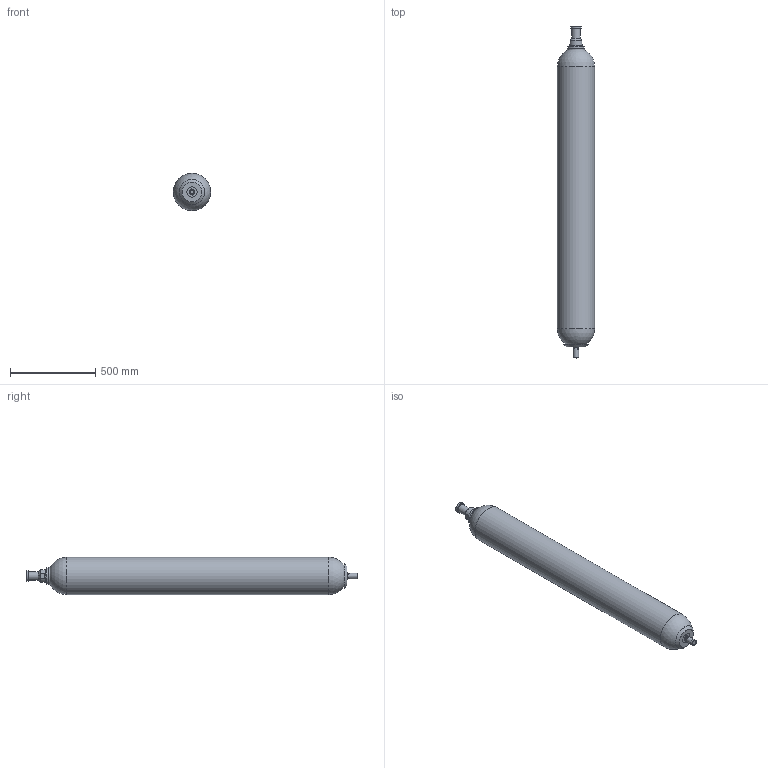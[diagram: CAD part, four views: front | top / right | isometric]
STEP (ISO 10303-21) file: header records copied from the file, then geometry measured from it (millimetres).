
FILE_DESCRIPTION((''),'2;1');
FILE_NAME('F:\STEP\ALLEGE\GAMME_EHVF_350&330&250bar\EHVF_50L_330_90.stp','2012-06-12T13:20:03',('eric.lebolay'),(''),'Autodesk Inventor 2012','Autodesk Inventor 2012','');
FILE_SCHEMA(('AUTOMOTIVE_DESIGN { 1 0 10303 214 1 1 1 1 }'));
Length unit declared in the file: millimetre
Products named in the file (22): EHVF_50L_330_90; PF108368-05200; BP102851-00200; BOUCHON DE PROTECTION; BOUCHON PLASTIQUE; EC102958-00200; BC110335-00220; BE105544-00200; EC100990-00200; CA100100-00220; B2100950-00200; ENROBAGE; BM110333-00200; CB110083-00200; CA110199-00190
Assembly tree (21 placements, depth 5):
  EHVF_50L_330_90
    PF108368-05200
      PF108368-05200
    BP102851-00200
      BOUCHON DE PROTECTION
      BOUCHON PLASTIQUE
    EC102958-00200
      EC102958-00200
    BC110335-00220
      BE105544-00200
        BE105544-00200
      EC100990-00200
        EC100990-00200
      CA100100-00220
        B2100950-00200
          B2100950-00200
        ENROBAGE
      BM110333-00200
        CB110083-00200
          CB110083-00200
    CA110199-00190
      CA110199-00190
Bounding box: 219.1 x 1952.2 x 219.1 mm (x, y, z)
Volume: 10675870.1 mm3; surface area: 2515553.7 mm2
Topology: 11 solids, 11 shells, 189 faces, 475 edges, 305 vertices
Faces by surface type: plane 67, cylinder 56, cone 44, torus 17, sphere 4, bspline 1
Full cylindrical faces by diameter (mm): 12 x1, 13 x8, 18 x1, 20 x1, 20.68 x1, 22.5 x1, 25 x1, 28.5 x2, 29.5 x1, 30.05 x1, 31 x1, 33.6 x1, 34 x1, 45.3 x1, 50 x1, 53.7 x1, 54 x1, 63.8 x1, 76 x2, 76.835 x1, 79 x1, 80 x2, 81 x1, 88 x1, 88.4 x1, 88.9 x1, 88.95 x1, 101 x1, 202.4 x1, 219.1 x1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
Entity records: 5693 total; most frequent: CARTESIAN_POINT 1096, DIRECTION 946, ORIENTED_EDGE 680, AXIS2_PLACEMENT_3D 413, EDGE_CURVE 340, EDGE_LOOP 310, VERTEX_POINT 262, FACE_OUTER_BOUND 189
